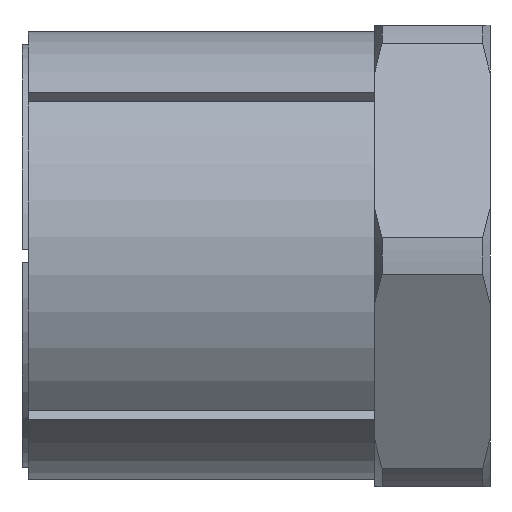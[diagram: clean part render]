
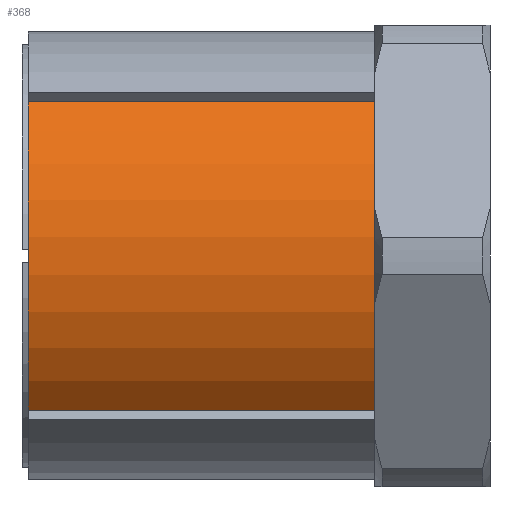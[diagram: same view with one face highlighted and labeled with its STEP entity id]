
A CAD part, front view. The second image highlights one B-rep face of the part: STEP entity #368.
In plain terms, the highlighted cylindrical face has radius 17.5 mm (diameter 35 mm), a partial arc.
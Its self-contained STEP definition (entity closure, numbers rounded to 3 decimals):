
#62 = EDGE_CURVE ( 'NONE', #1780, #1767, #658, .T. ) ;
#66 = EDGE_CURVE ( 'NONE', #1794, #1820, #660, .T. ) ;
#93 = AXIS2_PLACEMENT_3D ( 'NONE', #2097, #2096, #2095 ) ;
#131 = AXIS2_PLACEMENT_3D ( 'NONE', #2228, #2137, #2135 ) ;
#139 = EDGE_CURVE ( 'NONE', #1794, #1780, #1661, .T. ) ;
#193 = AXIS2_PLACEMENT_3D ( 'NONE', #2130, #2126, #2127 ) ;
#340 = EDGE_CURVE ( 'NONE', #1767, #1820, #929, .T. ) ;
#368 = ADVANCED_FACE ( 'NONE', ( #1045 ), #1039, .T. ) ;
#542 = CARTESIAN_POINT ( 'NONE',  ( 0., -12.723, 12.016 ) ) ;
#557 = CARTESIAN_POINT ( 'NONE',  ( 0., -12.723, -12.016 ) ) ;
#573 = CARTESIAN_POINT ( 'NONE',  ( 27., -12.723, -12.016 ) ) ;
#587 = CARTESIAN_POINT ( 'NONE',  ( 27., -12.723, 12.016 ) ) ;
#658 = CIRCLE ( 'NONE', #131, 17.5 ) ;
#660 = CIRCLE ( 'NONE', #93, 17.5 ) ;
#747 = ORIENTED_EDGE ( 'NONE', *, *, #62, .T. ) ;
#787 = ORIENTED_EDGE ( 'NONE', *, *, #340, .T. ) ;
#791 = ORIENTED_EDGE ( 'NONE', *, *, #66, .F. ) ;
#805 = ORIENTED_EDGE ( 'NONE', *, *, #139, .T. ) ;
#871 = EDGE_LOOP ( 'NONE', ( #747, #787, #791, #805 ) ) ;
#882 = VECTOR ( 'NONE', #2256, 1000. ) ;
#929 = LINE ( 'NONE', #2257, #882 ) ;
#1039 = CYLINDRICAL_SURFACE ( 'NONE', #193, 17.5 ) ;
#1045 = FACE_OUTER_BOUND ( 'NONE', #871, .T. ) ;
#1651 = VECTOR ( 'NONE', #2584, 1000. ) ;
#1661 = LINE ( 'NONE', #2586, #1651 ) ;
#1767 = VERTEX_POINT ( 'NONE', #587 ) ;
#1780 = VERTEX_POINT ( 'NONE', #573 ) ;
#1794 = VERTEX_POINT ( 'NONE', #557 ) ;
#1820 = VERTEX_POINT ( 'NONE', #542 ) ;
#2095 = DIRECTION ( 'NONE',  ( 0., 0., 1. ) ) ;
#2096 = DIRECTION ( 'NONE',  ( -1., 0., 0. ) ) ;
#2097 = CARTESIAN_POINT ( 'NONE',  ( 0., 0., 0. ) ) ;
#2126 = DIRECTION ( 'NONE',  ( -1., 0., 0. ) ) ;
#2127 = DIRECTION ( 'NONE',  ( 0., 0., 1. ) ) ;
#2130 = CARTESIAN_POINT ( 'NONE',  ( 0., 0., 0. ) ) ;
#2135 = DIRECTION ( 'NONE',  ( 0., 0., 1. ) ) ;
#2137 = DIRECTION ( 'NONE',  ( -1., 0., 0. ) ) ;
#2228 = CARTESIAN_POINT ( 'NONE',  ( 27., 0., 0. ) ) ;
#2256 = DIRECTION ( 'NONE',  ( -1., 0., 0. ) ) ;
#2257 = CARTESIAN_POINT ( 'NONE',  ( 0., -12.723, 12.016 ) ) ;
#2584 = DIRECTION ( 'NONE',  ( 1., 0., 0. ) ) ;
#2586 = CARTESIAN_POINT ( 'NONE',  ( 0., -12.723, -12.016 ) ) ;
